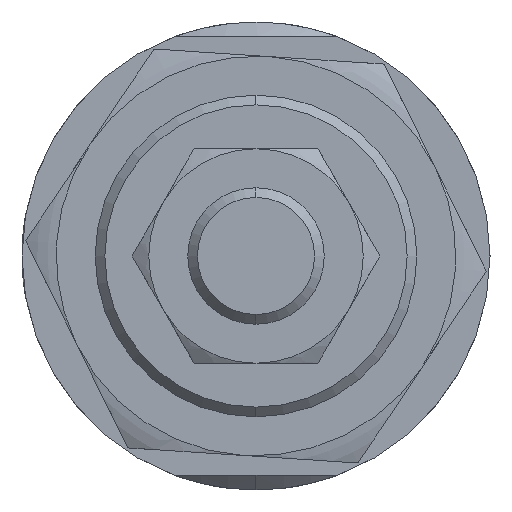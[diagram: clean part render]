
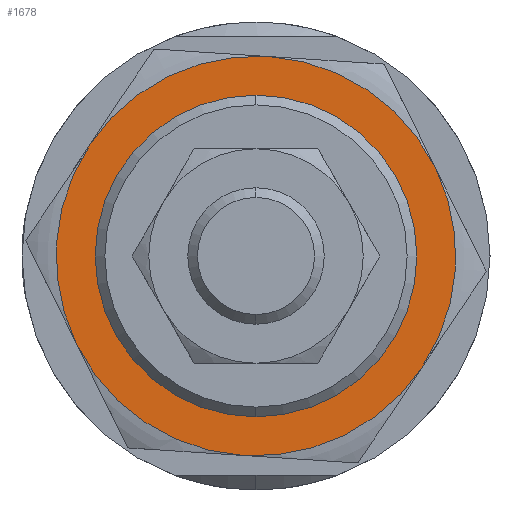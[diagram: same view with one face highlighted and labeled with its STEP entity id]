
A CAD part, left-side view. The second image highlights one B-rep face of the part: STEP entity #1678.
In plain terms, the highlighted planar face has unit normal (-1, 0, 0) as drawn and (0, 0, -1) by its records, which use the part's own axes.
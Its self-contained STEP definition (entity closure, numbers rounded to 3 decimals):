
#6 = CARTESIAN_POINT ( 'NONE',  ( -10.25, -17.754, -5.5 ) ) ;
#40 = VERTEX_POINT ( 'NONE', #6 ) ;
#96 = DIRECTION ( 'NONE',  ( 1., 0., 0. ) ) ;
#133 = DIRECTION ( 'NONE',  ( 0., 0., 1. ) ) ;
#264 = EDGE_CURVE ( 'NONE', #2994, #887, #1230, .T. ) ;
#313 = DIRECTION ( 'NONE',  ( 1., 0., 0. ) ) ;
#326 = CARTESIAN_POINT ( 'NONE',  ( 0., 0., -5.5 ) ) ;
#339 = DIRECTION ( 'NONE',  ( 1., 0., 0. ) ) ;
#345 = DIRECTION ( 'NONE',  ( 1., 0., 0. ) ) ;
#450 = FACE_OUTER_BOUND ( 'NONE', #1576, .T. ) ;
#502 = DIRECTION ( 'NONE',  ( 0., 0., 1. ) ) ;
#527 = CARTESIAN_POINT ( 'NONE',  ( 20.5, 0., -5.5 ) ) ;
#545 = ORIENTED_EDGE ( 'NONE', *, *, #1938, .F. ) ;
#650 = DIRECTION ( 'NONE',  ( 0., 0., 1. ) ) ;
#677 = CARTESIAN_POINT ( 'NONE',  ( -10.25, 17.754, -5.5 ) ) ;
#685 = EDGE_CURVE ( 'NONE', #887, #2994, #2406, .T. ) ;
#869 = CARTESIAN_POINT ( 'NONE',  ( 0., 0., -5.5 ) ) ;
#887 = VERTEX_POINT ( 'NONE', #2327 ) ;
#1040 = AXIS2_PLACEMENT_3D ( 'NONE', #1088, #2846, #313 ) ;
#1053 = AXIS2_PLACEMENT_3D ( 'NONE', #1471, #133, #2943 ) ;
#1068 = EDGE_CURVE ( 'NONE', #3069, #3004, #2955, .T. ) ;
#1078 = DIRECTION ( 'NONE',  ( 0., 0., 1. ) ) ;
#1088 = CARTESIAN_POINT ( 'NONE',  ( 0., 0., -5.5 ) ) ;
#1133 = DIRECTION ( 'NONE',  ( 1., 0., 0. ) ) ;
#1198 = VERTEX_POINT ( 'NONE', #677 ) ;
#1226 = CIRCLE ( 'NONE', #1040, 20.5 ) ;
#1230 = CIRCLE ( 'NONE', #2583, 15.5 ) ;
#1255 = ORIENTED_EDGE ( 'NONE', *, *, #1068, .F. ) ;
#1258 = DIRECTION ( 'NONE',  ( 1., 0., 0. ) ) ;
#1278 = CARTESIAN_POINT ( 'NONE',  ( 0., 0., -5.5 ) ) ;
#1284 = ORIENTED_EDGE ( 'NONE', *, *, #685, .T. ) ;
#1289 = EDGE_CURVE ( 'NONE', #1198, #3084, #2917, .T. ) ;
#1355 = AXIS2_PLACEMENT_3D ( 'NONE', #1278, #502, #1258 ) ;
#1358 = DIRECTION ( 'NONE',  ( 0., 0., 1. ) ) ;
#1359 = AXIS2_PLACEMENT_3D ( 'NONE', #3134, #1396, #96 ) ;
#1396 = DIRECTION ( 'NONE',  ( 0., 0., 1. ) ) ;
#1418 = CARTESIAN_POINT ( 'NONE',  ( 0., 0., -5.5 ) ) ;
#1471 = CARTESIAN_POINT ( 'NONE',  ( 0., 0., -5.5 ) ) ;
#1576 = EDGE_LOOP ( 'NONE', ( #1255, #3042, #2267, #545, #2570, #1854 ) ) ;
#1678 = ADVANCED_FACE ( 'NONE', ( #2080, #450 ), #2167, .F. ) ;
#1762 = ORIENTED_EDGE ( 'NONE', *, *, #264, .T. ) ;
#1854 = ORIENTED_EDGE ( 'NONE', *, *, #2708, .F. ) ;
#1921 = DIRECTION ( 'NONE',  ( 1., 0., 0. ) ) ;
#1938 = EDGE_CURVE ( 'NONE', #3084, #40, #1226, .T. ) ;
#2019 = EDGE_CURVE ( 'NONE', #40, #2701, #2309, .T. ) ;
#2043 = AXIS2_PLACEMENT_3D ( 'NONE', #326, #1078, #1921 ) ;
#2080 = FACE_BOUND ( 'NONE', #2611, .T. ) ;
#2101 = AXIS2_PLACEMENT_3D ( 'NONE', #1418, #650, #2181 ) ;
#2167 = PLANE ( 'NONE',  #2101 ) ;
#2181 = DIRECTION ( 'NONE',  ( 1., 0., 0. ) ) ;
#2267 = ORIENTED_EDGE ( 'NONE', *, *, #2019, .F. ) ;
#2309 = CIRCLE ( 'NONE', #2043, 20.5 ) ;
#2327 = CARTESIAN_POINT ( 'NONE',  ( -15.5, 0., -5.5 ) ) ;
#2392 = DIRECTION ( 'NONE',  ( 0., 0., 1. ) ) ;
#2406 = CIRCLE ( 'NONE', #1053, 15.5 ) ;
#2518 = CIRCLE ( 'NONE', #1359, 20.5 ) ;
#2561 = CARTESIAN_POINT ( 'NONE',  ( -20.5, 0., -5.5 ) ) ;
#2570 = ORIENTED_EDGE ( 'NONE', *, *, #1289, .F. ) ;
#2583 = AXIS2_PLACEMENT_3D ( 'NONE', #2642, #2392, #1133 ) ;
#2611 = EDGE_LOOP ( 'NONE', ( #1762, #1284 ) ) ;
#2642 = CARTESIAN_POINT ( 'NONE',  ( 0., 0., -5.5 ) ) ;
#2701 = VERTEX_POINT ( 'NONE', #3104 ) ;
#2708 = EDGE_CURVE ( 'NONE', #3004, #1198, #2862, .T. ) ;
#2787 = CARTESIAN_POINT ( 'NONE',  ( 15.5, 0., -5.5 ) ) ;
#2792 = AXIS2_PLACEMENT_3D ( 'NONE', #2874, #1358, #339 ) ;
#2846 = DIRECTION ( 'NONE',  ( 0., 0., 1. ) ) ;
#2862 = CIRCLE ( 'NONE', #2792, 20.5 ) ;
#2874 = CARTESIAN_POINT ( 'NONE',  ( 0., 0., -5.5 ) ) ;
#2917 = CIRCLE ( 'NONE', #1355, 20.5 ) ;
#2943 = DIRECTION ( 'NONE',  ( 1., 0., 0. ) ) ;
#2955 = CIRCLE ( 'NONE', #3137, 20.5 ) ;
#2994 = VERTEX_POINT ( 'NONE', #2787 ) ;
#3004 = VERTEX_POINT ( 'NONE', #3313 ) ;
#3042 = ORIENTED_EDGE ( 'NONE', *, *, #3310, .F. ) ;
#3069 = VERTEX_POINT ( 'NONE', #527 ) ;
#3084 = VERTEX_POINT ( 'NONE', #2561 ) ;
#3104 = CARTESIAN_POINT ( 'NONE',  ( 10.25, -17.754, -5.5 ) ) ;
#3133 = DIRECTION ( 'NONE',  ( 0., 0., 1. ) ) ;
#3134 = CARTESIAN_POINT ( 'NONE',  ( 0., 0., -5.5 ) ) ;
#3137 = AXIS2_PLACEMENT_3D ( 'NONE', #869, #3133, #345 ) ;
#3310 = EDGE_CURVE ( 'NONE', #2701, #3069, #2518, .T. ) ;
#3313 = CARTESIAN_POINT ( 'NONE',  ( 10.25, 17.754, -5.5 ) ) ;
